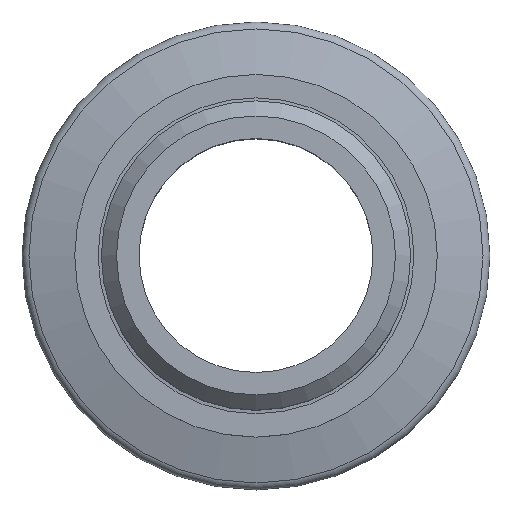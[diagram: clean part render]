
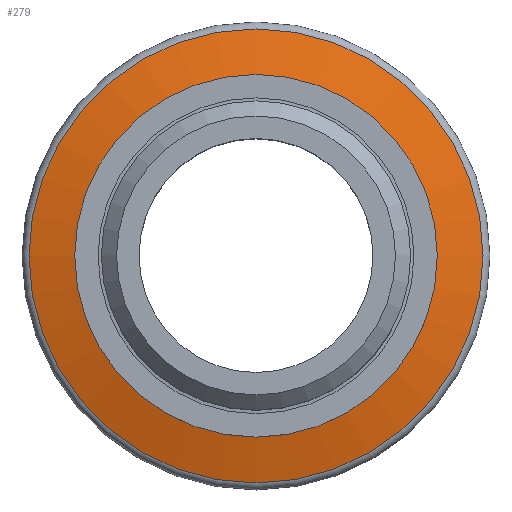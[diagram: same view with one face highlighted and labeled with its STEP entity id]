
A CAD part, top view. The second image highlights one B-rep face of the part: STEP entity #279.
In plain terms, the highlighted conical face has half-angle 75 degrees and reference radius 20 mm.
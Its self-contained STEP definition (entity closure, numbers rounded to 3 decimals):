
#22=CONICAL_SURFACE('',#302,20.,1.309);
#34=ORIENTED_EDGE('',*,*,#63,.T.);
#35=ORIENTED_EDGE('',*,*,#64,.T.);
#63=EDGE_CURVE('',#78,#78,#93,.T.);
#64=EDGE_CURVE('',#79,#79,#94,.T.);
#78=VERTEX_POINT('',#400);
#79=VERTEX_POINT('',#402);
#93=CIRCLE('',#303,19.407);
#94=CIRCLE('',#304,14.5);
#109=EDGE_LOOP('',(#34));
#110=EDGE_LOOP('',(#35));
#139=FACE_BOUND('',#109,.T.);
#140=FACE_BOUND('',#110,.T.);
#279=ADVANCED_FACE('',(#139,#140),#22,.T.);
#302=AXIS2_PLACEMENT_3D('',#398,#339,#340);
#303=AXIS2_PLACEMENT_3D('',#399,#341,#342);
#304=AXIS2_PLACEMENT_3D('',#401,#343,#344);
#339=DIRECTION('',(0.,0.,-1.));
#340=DIRECTION('',(-1.,0.,0.));
#341=DIRECTION('',(0.,0.,1.));
#342=DIRECTION('',(1.,0.,0.));
#343=DIRECTION('',(0.,0.,-1.));
#344=DIRECTION('',(-1.,0.,0.));
#398=CARTESIAN_POINT('',(0.,0.,3.));
#399=CARTESIAN_POINT('',(0.,0.,3.159));
#400=CARTESIAN_POINT('',(19.407,0.,3.159));
#401=CARTESIAN_POINT('',(0.,0.,4.474));
#402=CARTESIAN_POINT('',(-14.5,0.,4.474));
